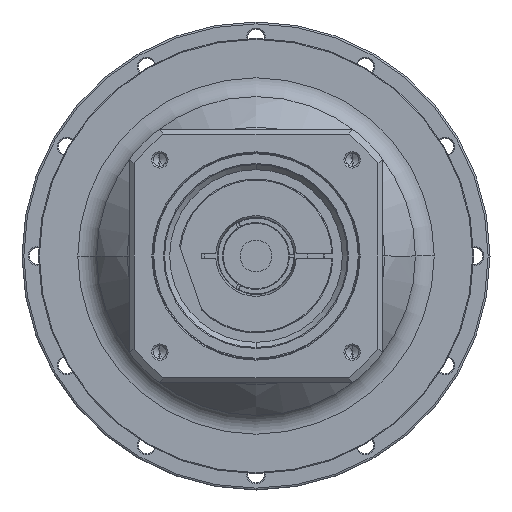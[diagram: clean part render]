
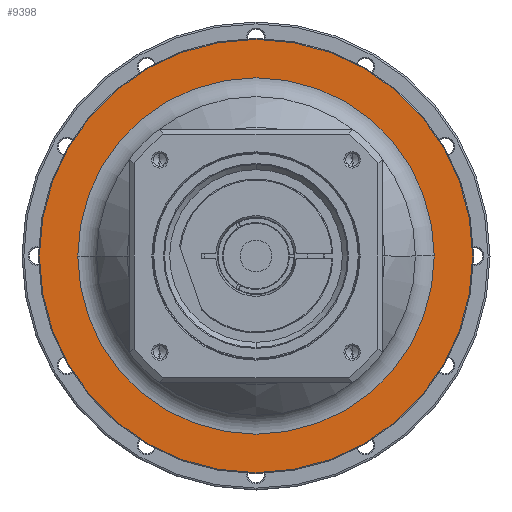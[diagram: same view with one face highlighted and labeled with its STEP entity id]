
A CAD part, left-side view. The second image highlights one B-rep face of the part: STEP entity #9398.
In plain terms, the highlighted planar face has unit normal (-1, 0, 0) as drawn and (1, 0, 0) by its records, which use the part's own axes.
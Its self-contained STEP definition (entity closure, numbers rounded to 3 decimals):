
#8381=CARTESIAN_POINT('',(-33.5,0.,0.));
#8382=DIRECTION('',(1.,0.,0.));
#8383=DIRECTION('',(0.,1.,0.));
#8384=AXIS2_PLACEMENT_3D('',#8381,#8382,#8383);
#8386=CARTESIAN_POINT('',(-33.5,0.,0.));
#8387=DIRECTION('',(1.,0.,0.));
#8388=DIRECTION('',(0.,-1.,0.));
#8389=AXIS2_PLACEMENT_3D('',#8386,#8387,#8388);
#8391=CARTESIAN_POINT('',(-33.5,0.,0.));
#8392=DIRECTION('',(-1.,0.,0.));
#8393=DIRECTION('',(0.,-1.,0.));
#8394=AXIS2_PLACEMENT_3D('',#8391,#8392,#8393);
#8396=CARTESIAN_POINT('',(-33.5,0.,0.));
#8397=DIRECTION('',(-1.,0.,0.));
#8398=DIRECTION('',(0.,1.,0.));
#8399=AXIS2_PLACEMENT_3D('',#8396,#8397,#8398);
#8669=CARTESIAN_POINT('',(-33.5,-115.5,0.));
#8670=CARTESIAN_POINT('',(-33.5,115.5,0.));
#8671=VERTEX_POINT('',#8669);
#8672=VERTEX_POINT('',#8670);
#8737=CARTESIAN_POINT('',(-33.5,95.,0.));
#8738=VERTEX_POINT('',#8737);
#8739=CARTESIAN_POINT('',(-33.5,-95.,0.));
#8740=VERTEX_POINT('',#8739);
#9383=CARTESIAN_POINT('',(-33.5,0.,0.));
#9384=DIRECTION('',(1.,0.,0.));
#9385=DIRECTION('',(0.,-1.,0.));
#9386=AXIS2_PLACEMENT_3D('',#9383,#9384,#9385);
#9387=PLANE('',#9386);
#9388=ORIENTED_EDGE('',*,*,#9339,.T.);
#9389=ORIENTED_EDGE('',*,*,#9324,.T.);
#9390=EDGE_LOOP('',(#9388,#9389));
#9391=FACE_OUTER_BOUND('',#9390,.F.);
#9393=ORIENTED_EDGE('',*,*,#9392,.T.);
#9395=ORIENTED_EDGE('',*,*,#9394,.T.);
#9396=EDGE_LOOP('',(#9393,#9395));
#9397=FACE_BOUND('',#9396,.F.);
#9398=ADVANCED_FACE('',(#9391,#9397),#9387,.T.);
#8385=CIRCLE('',#8384,95.);
#8390=CIRCLE('',#8389,95.);
#8395=CIRCLE('',#8394,115.5);
#8400=CIRCLE('',#8399,115.5);
#9324=EDGE_CURVE('',#8672,#8671,#8400,.T.);
#9339=EDGE_CURVE('',#8671,#8672,#8395,.T.);
#9392=EDGE_CURVE('',#8738,#8740,#8385,.T.);
#9394=EDGE_CURVE('',#8740,#8738,#8390,.T.);
